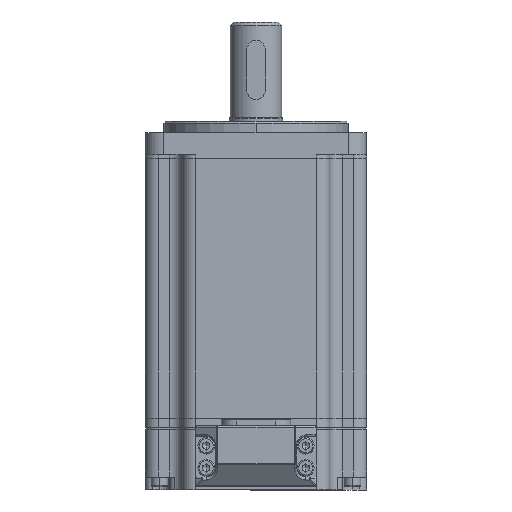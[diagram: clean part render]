
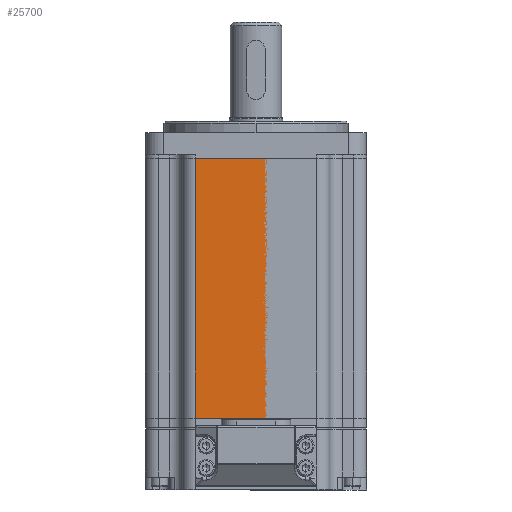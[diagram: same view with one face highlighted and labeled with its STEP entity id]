
A CAD part, left-side view. The second image highlights one B-rep face of the part: STEP entity #25700.
In plain terms, the highlighted planar face has unit normal (-1, 0, 0).
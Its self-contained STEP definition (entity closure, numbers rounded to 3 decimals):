
#755 = LINE ( 'NONE', #13657, #28103 ) ;
#1144 = VECTOR ( 'NONE', #6305, 1000. ) ;
#2520 = CARTESIAN_POINT ( 'NONE',  ( -30., 20., -1. ) ) ;
#6305 = DIRECTION ( 'NONE',  ( 0., 1., 0. ) ) ;
#7150 = DIRECTION ( 'NONE',  ( 0., 0., 1. ) ) ;
#9203 = ORIENTED_EDGE ( 'NONE', *, *, #20443, .F. ) ;
#9517 = CARTESIAN_POINT ( 'NONE',  ( -30., 16.5, -71.5 ) ) ;
#10894 = CARTESIAN_POINT ( 'NONE',  ( -30., -16.5, -71.5 ) ) ;
#12915 = VERTEX_POINT ( 'NONE', #36324 ) ;
#13194 = LINE ( 'NONE', #9517, #48040 ) ;
#13257 = DIRECTION ( 'NONE',  ( 0., 0., -1. ) ) ;
#13657 = CARTESIAN_POINT ( 'NONE',  ( -30., 20., -71.5 ) ) ;
#14100 = VERTEX_POINT ( 'NONE', #15277 ) ;
#14909 = ORIENTED_EDGE ( 'NONE', *, *, #22403, .T. ) ;
#15277 = CARTESIAN_POINT ( 'NONE',  ( -30., -16.5, -71.5 ) ) ;
#16583 = EDGE_CURVE ( 'NONE', #14100, #39829, #42970, .T. ) ;
#16699 = FACE_OUTER_BOUND ( 'NONE', #24829, .T. ) ;
#18364 = EDGE_CURVE ( 'NONE', #44787, #12915, #13194, .T. ) ;
#20443 = EDGE_CURVE ( 'NONE', #14100, #12915, #755, .T. ) ;
#21932 = ORIENTED_EDGE ( 'NONE', *, *, #16583, .T. ) ;
#22403 = EDGE_CURVE ( 'NONE', #39829, #44787, #30823, .T. ) ;
#24829 = EDGE_LOOP ( 'NONE', ( #14909, #35257, #9203, #21932 ) ) ;
#25545 = CARTESIAN_POINT ( 'NONE',  ( -30., 20., -71.5 ) ) ;
#25700 = ADVANCED_FACE ( 'NONE', ( #16699 ), #29315, .F. ) ;
#26690 = VECTOR ( 'NONE', #7150, 1000. ) ;
#28103 = VECTOR ( 'NONE', #39652, 1000. ) ;
#29315 = PLANE ( 'NONE',  #30829 ) ;
#30823 = LINE ( 'NONE', #2520, #1144 ) ;
#30829 = AXIS2_PLACEMENT_3D ( 'NONE', #25545, #40344, #33018 ) ;
#32383 = CARTESIAN_POINT ( 'NONE',  ( -30., 16.5, -1. ) ) ;
#33018 = DIRECTION ( 'NONE',  ( 0., 0., 1. ) ) ;
#34610 = CARTESIAN_POINT ( 'NONE',  ( -30., -16.5, -1. ) ) ;
#35257 = ORIENTED_EDGE ( 'NONE', *, *, #18364, .T. ) ;
#36324 = CARTESIAN_POINT ( 'NONE',  ( -30., 16.5, -71.5 ) ) ;
#39652 = DIRECTION ( 'NONE',  ( 0., 1., 0. ) ) ;
#39829 = VERTEX_POINT ( 'NONE', #34610 ) ;
#40344 = DIRECTION ( 'NONE',  ( 1., 0., 0. ) ) ;
#42970 = LINE ( 'NONE', #10894, #26690 ) ;
#44787 = VERTEX_POINT ( 'NONE', #32383 ) ;
#48040 = VECTOR ( 'NONE', #13257, 1000. ) ;
